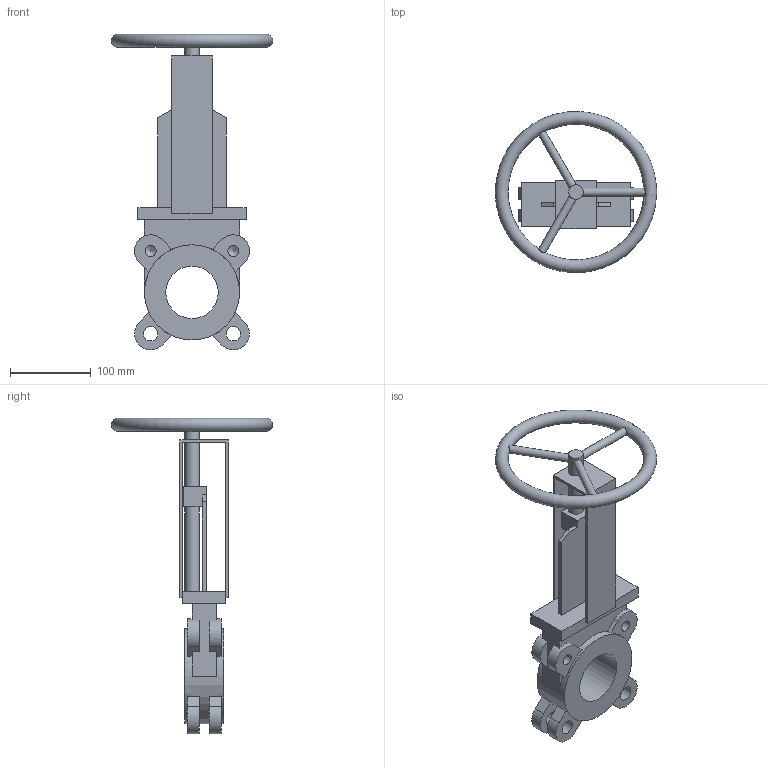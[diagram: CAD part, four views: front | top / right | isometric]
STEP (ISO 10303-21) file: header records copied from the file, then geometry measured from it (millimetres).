
FILE_DESCRIPTION(('STEP AP203'), '1');
FILE_NAME('Çàäâèæêà øèáåðíàÿ ìåæôëàíöåâàÿ K51GV DN65', '', ('UNSPECIFIED'), ('UNSPECIFIED'), 'ASCON STEP Converter 1.6', 'ASCON Math Kernel', '');
FILE_SCHEMA(('CONFIG_CONTROL_DESIGN'));
Length unit declared in the file: millimetre
Bounding box: 199.94 x 199.69 x 391.19 mm (x, y, z)
Volume: 1036877.4 mm3; surface area: 206301.4 mm2
Topology: 1 solids, 1 shells, 101 faces, 276 edges, 181 vertices
Faces by surface type: plane 72, cylinder 24, cone 4, torus 1
Full cylindrical faces by diameter (mm): 10 x3, 13.835 x4, 18 x7, 65 x1, 118 x1
Entity records: 5083 total; most frequent: CARTESIAN_POINT 1714, DIRECTION 510, ORIENTED_EDGE 496, EDGE_CURVE 248, VERTEX_POINT 176, LINE 174, VECTOR 174, AXIS2_PLACEMENT_3D 168
